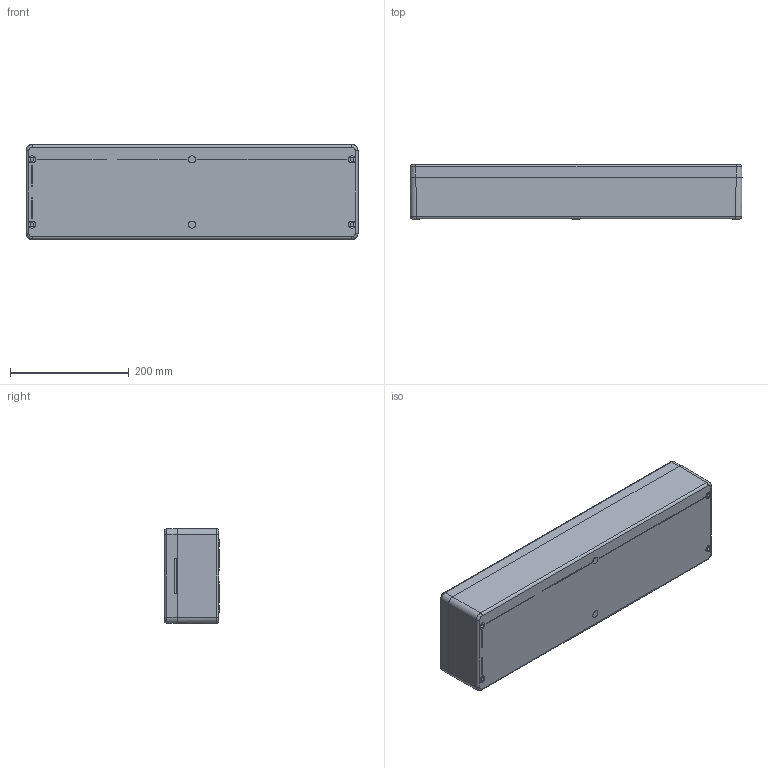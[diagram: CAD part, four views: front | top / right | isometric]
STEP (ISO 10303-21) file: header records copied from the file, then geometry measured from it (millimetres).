
FILE_DESCRIPTION((''),'2;1');
FILE_NAME('4330000000_ASM','2023-01-03T11:02:12',('silke.otte'),(''),'CREO PARAMETRIC BY PTC INC, 2022124','CREO PARAMETRIC BY PTC INC, 2022124','');
FILE_SCHEMA(('AUTOMOTIVE_DESIGN { 1 0 10303 214 1 1 1 1 }'));
Length unit declared in the file: millimetre
Products named in the file (10): 9331013000; 9502218000; 9502217000; 9331013000_ASM; 9332013000; CP-DICHTUNG_45; 9614004000_ASM; 9262006000; 9261027000; 4330000000_ASM
Assembly tree (29 placements, depth 3):
  4330000000_ASM
    9331013000_ASM
      9331013000
      9502218000  x6
      9502217000  x6
    9614004000_ASM
      9332013000
      CP-DICHTUNG_45
    9262006000  x6
    9261027000  x6
Bounding box: 560 x 91.5 x 160 mm (x, y, z)
Volume: 1831724.7 mm3; surface area: 646414.2 mm2
Topology: 27 solids, 45 shells, 2936 faces, 7925 edges, 5130 vertices
Faces by surface type: plane 2174, cone 466, cylinder 226, torus 42, bspline 28
Entity records: 41488 total; most frequent: CARTESIAN_POINT 7747, DIRECTION 4843, ORIENTED_EDGE 4212, PRESENTATION_STYLE_ASSIGNMENT 2458, STYLED_ITEM 2447, CURVE_STYLE 2438, EDGE_CURVE 2112, AXIS2_PLACEMENT_3D 1760
